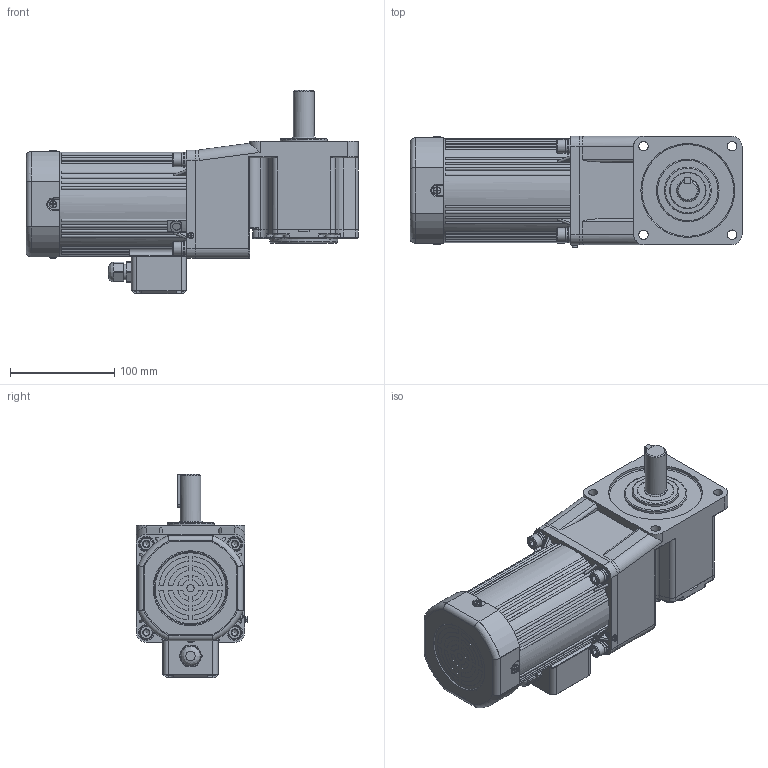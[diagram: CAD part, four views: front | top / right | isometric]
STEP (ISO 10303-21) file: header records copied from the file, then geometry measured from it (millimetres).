
FILE_DESCRIPTION(/* description */ (''),/* implementation_level */ '2;1');
FILE_NAME(/* name */ '100+直角中实-风叶-160-250W 新版常规接线盒.stp',/* time_stamp */ '2025-04-07T19:58:24+08:00',/* author */ (''),/* organization */ (''),/* preprocessor_version */ 'ST-DEVELOPER v18.102',/* originating_system */ 'SIEMENS PLM Software NX 2027',/* authorisation */ '');
FILE_SCHEMA (('AP203_CONFIGURATION_CONTROLLED_3D_DESIGN_OF_MECHANICAL_PARTS_AND_ASSEMBLIES_MIM_LF { 1 0 10303 403 2 1 2}'));
Products named in the file (1): 100+直角中实-风叶-160-250W 新版_
stp_objects
Bounding box: 318.5 x 106.83 x 195.5 mm (x, y, z)
Volume: 3090973.7 mm3; surface area: 418403.5 mm2
Topology: 27 solids, 27 shells, 1899 faces, 4938 edges, 3197 vertices
Faces by surface type: plane 829, cylinder 590, bspline 216, cone 124, torus 116, sphere 24
Full cylindrical faces by diameter (mm): 2.6 x2, 2.7 x1, 3 x17, 3.2 x2, 3.5 x4, 3.6 x4, 4 x4, 4.5 x4, 4.55 x2, 5.1 x2, 5.15 x2, 6 x10, 6.8 x12, 7 x2, 7.5 x2, 7.76 x4, 8.4 x4, 9 x14, 9.3 x1, 9.5 x4, 12 x1, 13 x4, 14 x8, 15 x7, 15.5 x2, 16 x1, 18 x1, 19 x3, 20 x1, 21 x1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
Entity records: 58757 total; most frequent: CARTESIAN_POINT 15031, ORIENTED_EDGE 8932, DIRECTION 8522, EDGE_CURVE 4466, AXIS2_PLACEMENT_3D 3337, VERTEX_POINT 3034, EDGE_LOOP 2393, ADVANCED_FACE 1899
